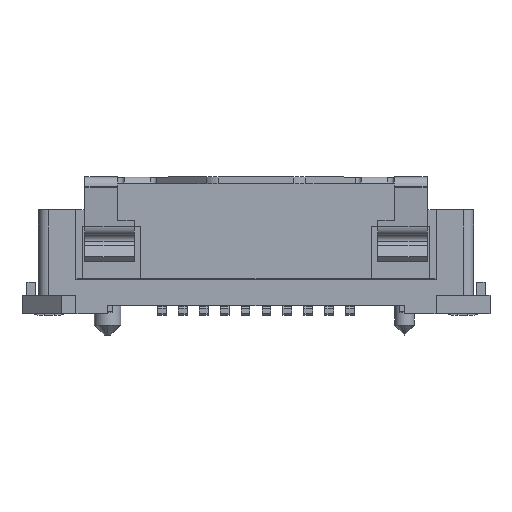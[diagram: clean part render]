
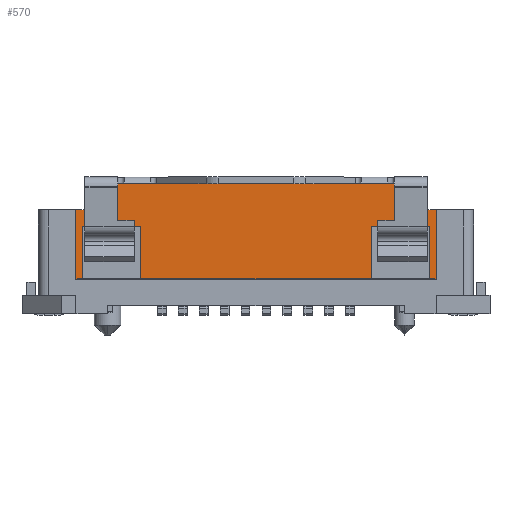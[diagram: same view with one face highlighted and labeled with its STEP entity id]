
A CAD part, top view. The second image highlights one B-rep face of the part: STEP entity #570.
In plain terms, the highlighted planar face has unit normal (0, 0, 1).
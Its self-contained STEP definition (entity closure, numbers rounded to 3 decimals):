
#570=ADVANCED_FACE('',(#1870),#1871,.F.);
#1870=FACE_OUTER_BOUND('',#3481,.T.);
#1871=PLANE('',#3482);
#3481=EDGE_LOOP('',(#7910,#7911,#7912,#7913,#7914,#7915,#7916,#7917,#7918,#7919,#7920,#7921,#7922,#7923,#7924,#7925,#7926,#7927,#7928,#7929,#7930,#7931));
#3482=AXIS2_PLACEMENT_3D('',#7932,#7933,#7934);
#7910=ORIENTED_EDGE('',*,*,#12140,.T.);
#7911=ORIENTED_EDGE('',*,*,#12141,.T.);
#7912=ORIENTED_EDGE('',*,*,#12047,.T.);
#7913=ORIENTED_EDGE('',*,*,#12142,.F.);
#7914=ORIENTED_EDGE('',*,*,#12143,.T.);
#7915=ORIENTED_EDGE('',*,*,#12144,.T.);
#7916=ORIENTED_EDGE('',*,*,#12145,.T.);
#7917=ORIENTED_EDGE('',*,*,#11045,.F.);
#7918=ORIENTED_EDGE('',*,*,#12146,.F.);
#7919=ORIENTED_EDGE('',*,*,#12126,.F.);
#7920=ORIENTED_EDGE('',*,*,#12139,.T.);
#7921=ORIENTED_EDGE('',*,*,#12147,.T.);
#7922=ORIENTED_EDGE('',*,*,#12148,.F.);
#7923=ORIENTED_EDGE('',*,*,#12133,.F.);
#7924=ORIENTED_EDGE('',*,*,#12149,.T.);
#7925=ORIENTED_EDGE('',*,*,#12150,.T.);
#7926=ORIENTED_EDGE('',*,*,#12151,.F.);
#7927=ORIENTED_EDGE('',*,*,#12130,.F.);
#7928=ORIENTED_EDGE('',*,*,#12152,.T.);
#7929=ORIENTED_EDGE('',*,*,#11053,.T.);
#7930=ORIENTED_EDGE('',*,*,#12153,.F.);
#7931=ORIENTED_EDGE('',*,*,#12154,.F.);
#7932=CARTESIAN_POINT('',(7.11,-0.925,2.4));
#7933=DIRECTION('',(0.0,0.0,-1.0));
#7934=DIRECTION('',(0.0,-1.0,0.0));
#11045=EDGE_CURVE('',#13518,#13520,#13521,.T.);
#11053=EDGE_CURVE('',#13536,#13534,#13537,.T.);
#12047=EDGE_CURVE('',#15194,#15195,#15196,.T.);
#12126=EDGE_CURVE('',#15331,#15332,#15333,.T.);
#12130=EDGE_CURVE('',#15338,#15340,#15341,.T.);
#12133=EDGE_CURVE('',#15343,#15345,#15346,.T.);
#12139=EDGE_CURVE('',#15331,#15354,#15356,.T.);
#12140=EDGE_CURVE('',#15230,#15357,#15358,.T.);
#12141=EDGE_CURVE('',#15357,#15194,#15359,.T.);
#12142=EDGE_CURVE('',#15360,#15195,#15361,.T.);
#12143=EDGE_CURVE('',#15360,#15362,#15363,.T.);
#12144=EDGE_CURVE('',#15362,#15364,#15365,.T.);
#12145=EDGE_CURVE('',#15364,#13520,#15366,.T.);
#12146=EDGE_CURVE('',#15332,#13518,#15367,.T.);
#12147=EDGE_CURVE('',#15354,#15368,#15369,.T.);
#12148=EDGE_CURVE('',#15345,#15368,#15370,.T.);
#12149=EDGE_CURVE('',#15343,#15371,#15372,.T.);
#12150=EDGE_CURVE('',#15371,#15373,#15374,.T.);
#12151=EDGE_CURVE('',#15340,#15373,#15375,.T.);
#12152=EDGE_CURVE('',#15338,#13536,#15376,.T.);
#12153=EDGE_CURVE('',#15377,#13534,#15378,.T.);
#12154=EDGE_CURVE('',#15230,#15377,#15379,.T.);
#13518=VERTEX_POINT('',#17214);
#13520=VERTEX_POINT('',#17217);
#13521=LINE('',#17218,#17219);
#13534=VERTEX_POINT('',#17238);
#13536=VERTEX_POINT('',#17241);
#13537=LINE('',#17242,#17243);
#15194=VERTEX_POINT('',#19753);
#15195=VERTEX_POINT('',#19754);
#15196=LINE('',#19755,#19756);
#15230=VERTEX_POINT('',#19804);
#15331=VERTEX_POINT('',#19948);
#15332=VERTEX_POINT('',#19949);
#15333=LINE('',#19950,#19951);
#15338=VERTEX_POINT('',#19958);
#15340=VERTEX_POINT('',#19961);
#15341=LINE('',#19962,#19963);
#15343=VERTEX_POINT('',#19966);
#15345=VERTEX_POINT('',#19969);
#15346=LINE('',#19970,#19971);
#15354=VERTEX_POINT('',#19983);
#15356=LINE('',#19986,#19987);
#15357=VERTEX_POINT('',#19988);
#15358=LINE('',#19989,#19990);
#15359=LINE('',#19991,#19992);
#15360=VERTEX_POINT('',#19993);
#15361=LINE('',#19994,#19995);
#15362=VERTEX_POINT('',#19996);
#15363=LINE('',#19997,#19998);
#15364=VERTEX_POINT('',#19999);
#15365=LINE('',#20000,#20001);
#15366=LINE('',#20002,#20003);
#15367=LINE('',#20004,#20005);
#15368=VERTEX_POINT('',#20006);
#15369=LINE('',#20007,#20008);
#15370=LINE('',#20009,#20010);
#15371=VERTEX_POINT('',#20011);
#15372=LINE('',#20012,#20013);
#15373=VERTEX_POINT('',#20014);
#15374=LINE('',#20015,#20016);
#15375=LINE('',#20017,#20018);
#15376=LINE('',#20019,#20020);
#15377=VERTEX_POINT('',#20021);
#15378=LINE('',#20022,#20023);
#15379=LINE('',#20024,#20025);
#17214=CARTESIAN_POINT('',(-5.47,1.175,2.4));
#17217=CARTESIAN_POINT('',(-4.86,1.175,2.4));
#17218=CARTESIAN_POINT('',(-5.47,1.175,2.4));
#17219=VECTOR('',#22077,0.61);
#17238=CARTESIAN_POINT('',(4.86,1.175,2.4));
#17241=CARTESIAN_POINT('',(5.47,1.175,2.4));
#17242=CARTESIAN_POINT('',(5.47,1.175,2.4));
#17243=VECTOR('',#22085,0.61);
#19753=CARTESIAN_POINT('',(1.959,1.97,2.4));
#19754=CARTESIAN_POINT('',(-1.959,1.97,2.4));
#19755=CARTESIAN_POINT('',(1.959,1.97,2.4));
#19756=VECTOR('',#23359,3.917);
#19804=CARTESIAN_POINT('',(4.2,1.975,2.4));
#19948=CARTESIAN_POINT('',(-5.275,-0.925,2.4));
#19949=CARTESIAN_POINT('',(-5.47,-0.925,2.4));
#19950=CARTESIAN_POINT('',(-5.275,-0.925,2.4));
#19951=VECTOR('',#23480,0.195);
#19958=CARTESIAN_POINT('',(5.47,-0.925,2.4));
#19961=CARTESIAN_POINT('',(5.275,-0.925,2.4));
#19962=CARTESIAN_POINT('',(5.47,-0.925,2.4));
#19963=VECTOR('',#23484,0.195);
#19966=CARTESIAN_POINT('',(3.5,-0.925,2.4));
#19969=CARTESIAN_POINT('',(-3.5,-0.925,2.4));
#19970=CARTESIAN_POINT('',(3.5,-0.925,2.4));
#19971=VECTOR('',#23487,7.0);
#19983=CARTESIAN_POINT('',(-5.275,0.675,2.4));
#19986=CARTESIAN_POINT('',(-5.275,-0.925,2.4));
#19987=VECTOR('',#23493,1.6);
#19988=CARTESIAN_POINT('',(1.959,1.975,2.4));
#19989=CARTESIAN_POINT('',(4.2,1.975,2.4));
#19990=VECTOR('',#23494,2.241);
#19991=CARTESIAN_POINT('',(1.959,1.975,2.4));
#19992=VECTOR('',#23495,0.005);
#19993=CARTESIAN_POINT('',(-1.959,1.975,2.4));
#19994=CARTESIAN_POINT('',(-1.959,1.975,2.4));
#19995=VECTOR('',#23496,0.005);
#19996=CARTESIAN_POINT('',(-4.2,1.975,2.4));
#19997=CARTESIAN_POINT('',(-1.959,1.975,2.4));
#19998=VECTOR('',#23497,2.241);
#19999=CARTESIAN_POINT('',(-4.86,1.975,2.4));
#20000=CARTESIAN_POINT('',(-4.2,1.975,2.4));
#20001=VECTOR('',#23498,0.66);
#20002=CARTESIAN_POINT('',(-4.86,1.975,2.4));
#20003=VECTOR('',#23499,0.8);
#20004=CARTESIAN_POINT('',(-5.47,-0.925,2.4));
#20005=VECTOR('',#23500,2.1);
#20006=CARTESIAN_POINT('',(-3.5,0.675,2.4));
#20007=CARTESIAN_POINT('',(-5.275,0.675,2.4));
#20008=VECTOR('',#23501,1.775);
#20009=CARTESIAN_POINT('',(-3.5,-0.925,2.4));
#20010=VECTOR('',#23502,1.6);
#20011=CARTESIAN_POINT('',(3.5,0.675,2.4));
#20012=CARTESIAN_POINT('',(3.5,-0.925,2.4));
#20013=VECTOR('',#23503,1.6);
#20014=CARTESIAN_POINT('',(5.275,0.675,2.4));
#20015=CARTESIAN_POINT('',(3.5,0.675,2.4));
#20016=VECTOR('',#23504,1.775);
#20017=CARTESIAN_POINT('',(5.275,-0.925,2.4));
#20018=VECTOR('',#23505,1.6);
#20019=CARTESIAN_POINT('',(5.47,-0.925,2.4));
#20020=VECTOR('',#23506,2.1);
#20021=CARTESIAN_POINT('',(4.86,1.975,2.4));
#20022=CARTESIAN_POINT('',(4.86,1.975,2.4));
#20023=VECTOR('',#23507,0.8);
#20024=CARTESIAN_POINT('',(4.2,1.975,2.4));
#20025=VECTOR('',#23508,0.66);
#22077=DIRECTION('',(1.0,0.0,0.0));
#22085=DIRECTION('',(-1.0,0.0,0.0));
#23359=DIRECTION('',(-1.0,0.0,0.0));
#23480=DIRECTION('',(-1.0,0.0,0.0));
#23484=DIRECTION('',(-1.0,0.0,0.0));
#23487=DIRECTION('',(-1.0,0.0,0.0));
#23493=DIRECTION('',(0.0,1.0,0.0));
#23494=DIRECTION('',(-1.0,0.0,0.0));
#23495=DIRECTION('',(0.0,-1.0,0.0));
#23496=DIRECTION('',(0.,-1.0,0.0));
#23497=DIRECTION('',(-1.0,0.0,0.0));
#23498=DIRECTION('',(-1.0,0.0,0.0));
#23499=DIRECTION('',(0.0,-1.0,0.0));
#23500=DIRECTION('',(0.0,1.0,0.0));
#23501=DIRECTION('',(1.0,0.0,0.0));
#23502=DIRECTION('',(0.0,1.0,0.0));
#23503=DIRECTION('',(0.0,1.0,0.0));
#23504=DIRECTION('',(1.0,0.0,0.0));
#23505=DIRECTION('',(0.0,1.0,0.0));
#23506=DIRECTION('',(0.0,1.0,0.0));
#23507=DIRECTION('',(0.0,-1.0,0.0));
#23508=DIRECTION('',(1.0,0.0,0.0));
